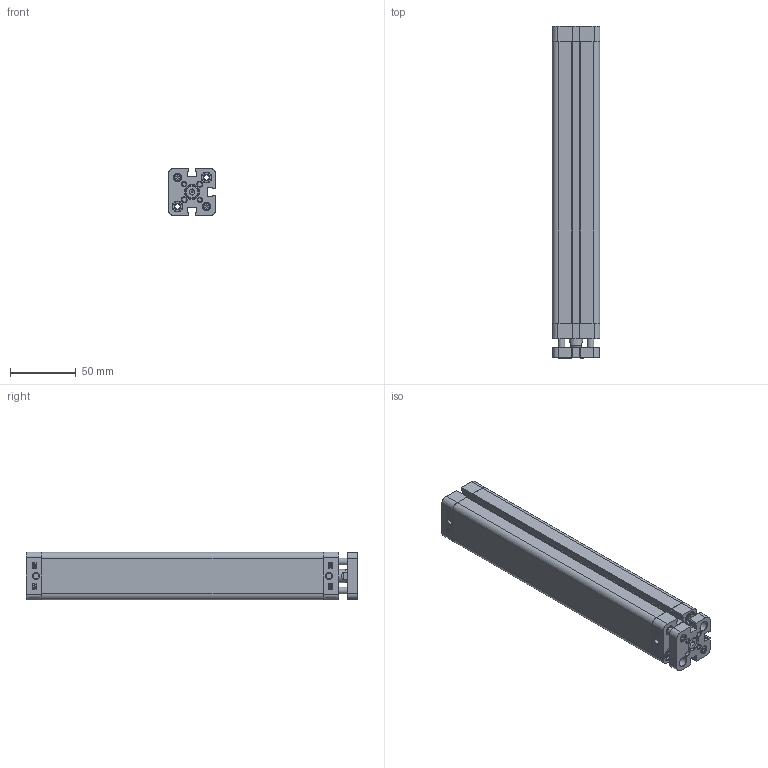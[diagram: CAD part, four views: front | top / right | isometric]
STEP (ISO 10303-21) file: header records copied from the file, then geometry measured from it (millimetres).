
FILE_DESCRIPTION(/* description */ ('Unknown'),/* implementation_level */ '2;1');
FILE_NAME(/* name */ 'ZINT 20_200',/* time_stamp */ '2025-01-27T11:32:00+01:00',/* author */ ('Unknown'),/* organization */ ('HAFNER Pneumatika Kft'),/* preprocessor_version */ 'ST-DEVELOPER v16.7',/* originating_system */ 'Solid Edge',/* authorisation */ 'Unknown');
FILE_SCHEMA (('AUTOMOTIVE_DESIGN {1 0 10303 214 3 1 1}'));
Length unit declared in the file: millimetre
Products named in the file (7): ZINT 20_200; Kit_1; Kit_2; Profilrohr; Kolbenstange; Platte; Führungsstange
Assembly tree (7 placements, depth 2):
  ZINT 20_200
    Kit_1
    Kit_2
    Profilrohr
    Kolbenstange
    Platte
    Führungsstange  x2
Bounding box: 36.3 x 251.5 x 36.3 mm (x, y, z)
Volume: 204039.6 mm3; surface area: 106944.2 mm2
Topology: 7 solids, 13 shells, 722 faces, 1919 edges, 1266 vertices
Faces by surface type: plane 349, cylinder 194, bspline 86, cone 77, torus 16
Full cylindrical faces by diameter (mm): 2.459 x2, 3 x2, 3.242 x2, 3.3 x2, 4 x2, 4.134 x8, 4.917 x1, 5 x2, 5.5 x2, 6 x2, 7 x2, 7.5 x6, 7.55 x4, 8 x8, 9 x1, 10 x2, 10.48 x1, 10.9 x4, 11 x1, 11.1 x4, 11.4 x1, 12 x1, 20 x2
Entity records: 26231 total; most frequent: CARTESIAN_POINT 4901, ORIENTED_EDGE 3432, DIRECTION 3256, EDGE_CURVE 1716, VERTEX_POINT 1203, AXIS2_PLACEMENT_3D 1122, LINE 1012, VECTOR 1012
